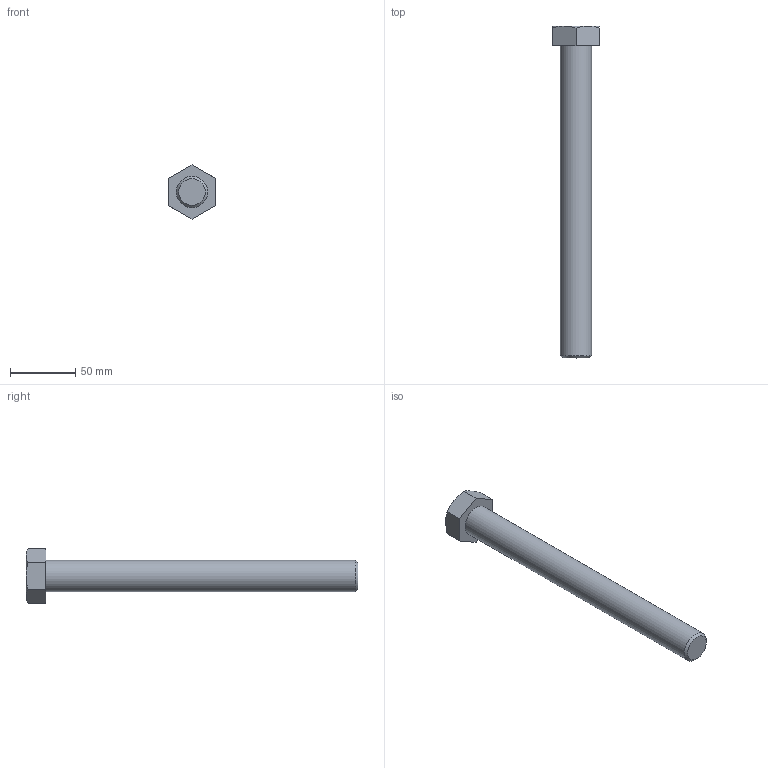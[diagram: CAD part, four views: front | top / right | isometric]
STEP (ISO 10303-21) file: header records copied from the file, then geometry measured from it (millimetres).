
FILE_DESCRIPTION(/* description */ (''),/* implementation_level */ '2;1');
FILE_NAME(/* name */ 'C:\Users\unitec\Documents\Inventor\各種小物\JIS\JIS B 1180 六角ボルト 等級C\hbc24\M24x240.stp',/* time_stamp */ '2015-02-13T14:54:21+09:00',/* author */ ('unitec'),/* organization */ (''),/* preprocessor_version */ 'ST-DEVELOPER v15.2',/* originating_system */ 'Autodesk Inventor 2014',/* authorisation */ '');
FILE_SCHEMA (('AUTOMOTIVE_DESIGN { 1 0 10303 214 3 1 1 }'));
Length unit declared in the file: millimetre
Products named in the file (1): M24x240
Bounding box: 36 x 255 x 41.57 mm (x, y, z)
Volume: 125237.2 mm3; surface area: 22072.6 mm2
Topology: 1 solids, 1 shells, 17 faces, 35 edges, 21 vertices
Faces by surface type: plane 9, cone 7, cylinder 1
Full cylindrical faces by diameter (mm): 24 x1
Entity records: 441 total; most frequent: CARTESIAN_POINT 96, ORIENTED_EDGE 66, DIRECTION 66, EDGE_CURVE 33, AXIS2_PLACEMENT_3D 27, VERTEX_POINT 21, EDGE_LOOP 20, ADVANCED_FACE 17
